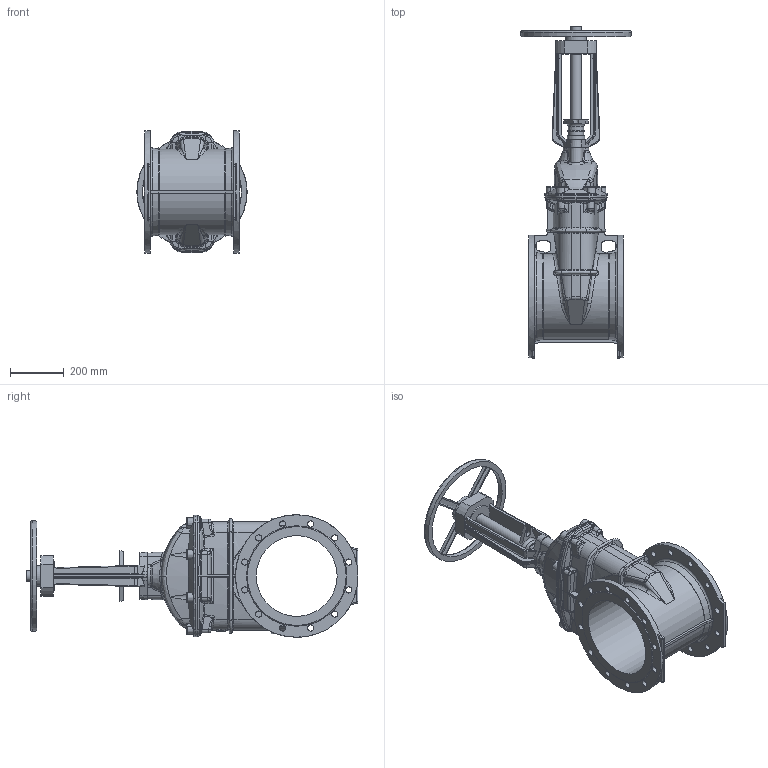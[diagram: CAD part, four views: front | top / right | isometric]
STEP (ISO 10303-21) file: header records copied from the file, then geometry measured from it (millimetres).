
FILE_DESCRIPTION (( 'STEP AP203' ), '1' );
FILE_NAME ('O_21_34_DN300_40XXXXX close_AA0.step', '2020-02-12T09:31:09', ( 'Windows User' ), ( 'AVK' ), 'SwSTEP 2.0', 'SolidWorks 2012', '' );
FILE_SCHEMA (( 'CONFIG_CONTROL_DESIGN' ));
Products named in the file (1): O_21_34_DN300_40XXXXX close_AA0
Bounding box: 409.98 x 1233.07 x 455 mm (x, y, z)
Volume: 34782382.8 mm3; surface area: 2043722 mm2
Topology: 1 solids, 1 shells, 1065 faces, 2718 edges, 1648 vertices
Faces by surface type: bspline 388, plane 232, cylinder 221, cone 140, torus 80, sphere 4
Full cylindrical faces by diameter (mm): 23 x24, 40 x2, 55.9 x1, 60 x1, 64 x1, 77 x1, 105 x2, 300 x1, 455 x2
Entity records: 49467 total; most frequent: CARTESIAN_POINT 27622, ORIENTED_EDGE 5230, DIRECTION 3640, EDGE_CURVE 2615, VERTEX_POINT 1609, AXIS2_PLACEMENT_3D 1489, EDGE_LOOP 1188, FACE_OUTER_BOUND 1104
